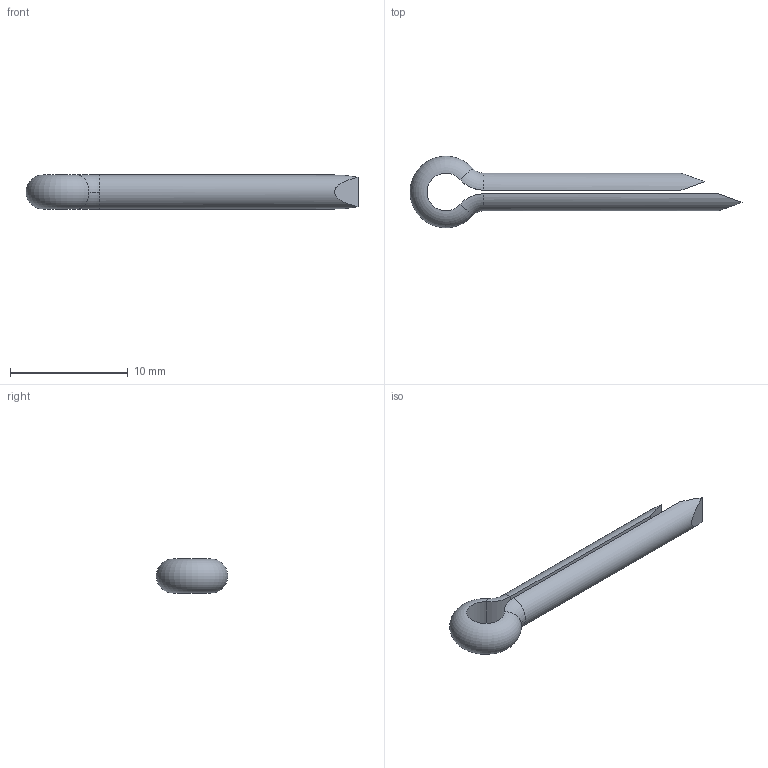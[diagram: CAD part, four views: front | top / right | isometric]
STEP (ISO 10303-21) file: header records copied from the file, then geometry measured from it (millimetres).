
FILE_DESCRIPTION (( 'STEP AP203' ), '1' );
FILE_NAME ('65674.0032.step', '2014-01-07T16:35:56', ( 'User' ), ( '' ), 'SwSTEP 2.0', 'SolidWorks 2009', '' );
FILE_SCHEMA (( 'CONFIG_CONTROL_DESIGN' ));
Length unit declared in the file: millimetre
Products named in the file (1): 65674.0032
Bounding box: 28.25 x 6.1 x 2.9 mm (x, y, z)
Volume: 175.4 mm3; surface area: 405.8 mm2
Topology: 1 solids, 1 shells, 16 faces, 34 edges, 20 vertices
Faces by surface type: plane 6, torus 5, cylinder 5
Entity records: 507 total; most frequent: CARTESIAN_POINT 89, DIRECTION 78, ORIENTED_EDGE 68, EDGE_CURVE 34, AXIS2_PLACEMENT_3D 33, VERTEX_POINT 20, EDGE_LOOP 16, ADVANCED_FACE 16
